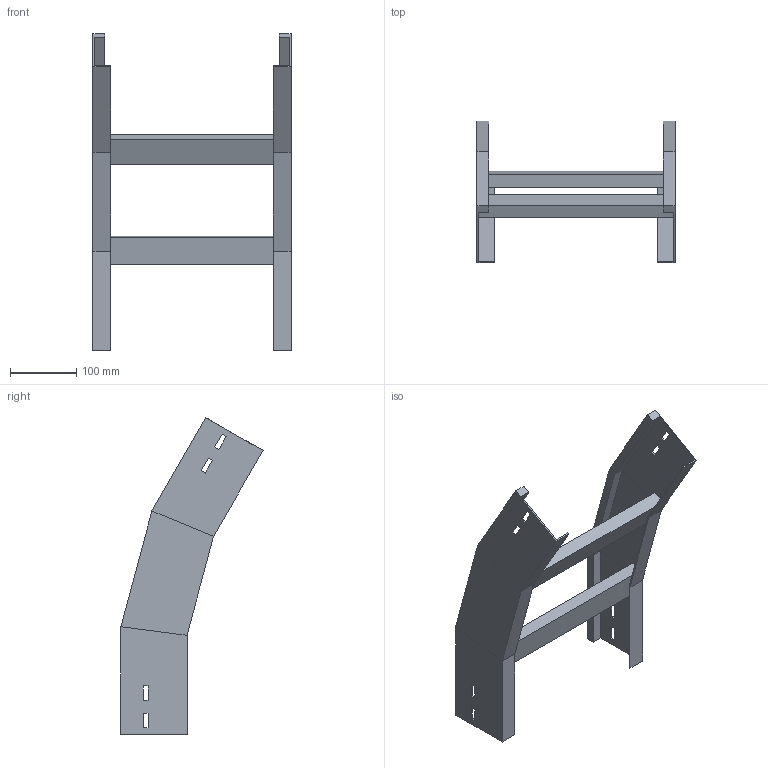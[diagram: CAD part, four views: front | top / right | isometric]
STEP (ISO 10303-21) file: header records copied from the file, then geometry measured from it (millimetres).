
FILE_DESCRIPTION (( 'STEP AP214' ), '1' );
FILE_NAME ('A2_35B3D300.step', '2025-02-21T14:46:12', ( '' ), ( '' ), 'SwSTEP 2.0', 'SolidWorks 2023', '' );
FILE_SCHEMA (( 'AUTOMOTIVE_DESIGN' ));
Length unit declared in the file: millimetre
Products named in the file (3): A2_35B3D300; LONGH.DISCESA_30°_H100_R300; TRAVERSINO_300
Assembly tree (5 placements, depth 2):
  A2_35B3D300
    LONGH.DISCESA_30°_H100_R300  x2
    TRAVERSINO_300  x3
Bounding box: 300 x 215.12 x 479.62 mm (x, y, z)
Volume: 1148629.4 mm3; surface area: 386763.6 mm2
Topology: 5 solids, 5 shells, 102 faces, 244 edges, 152 vertices
Faces by surface type: plane 102
Entity records: 1480 total; most frequent: CARTESIAN_POINT 244, ORIENTED_EDGE 232, DIRECTION 228, LINE 116, VECTOR 116, EDGE_CURVE 116, VERTEX_POINT 72, AXIS2_PLACEMENT_3D 56
